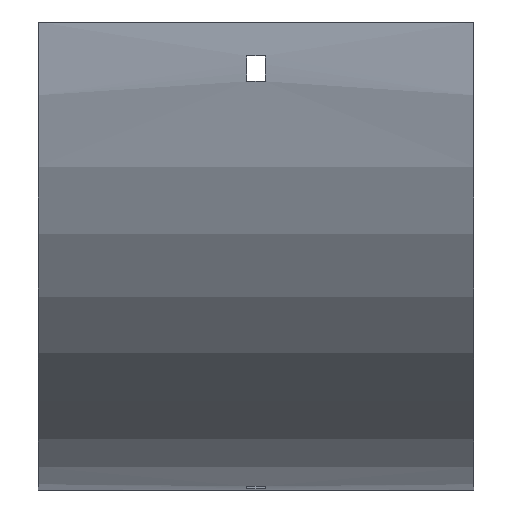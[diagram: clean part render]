
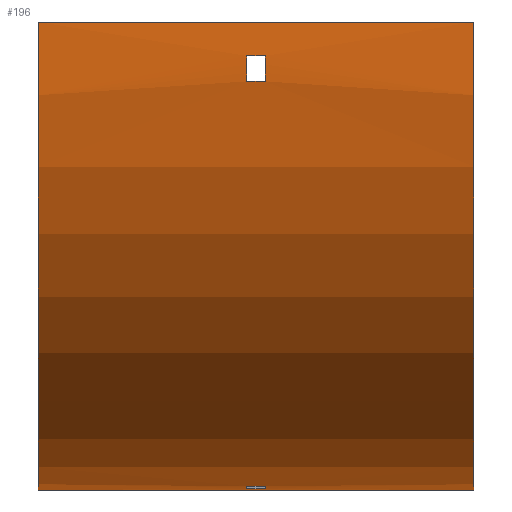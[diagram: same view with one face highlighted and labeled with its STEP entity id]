
A CAD part, front view. The second image highlights one B-rep face of the part: STEP entity #196.
In plain terms, the highlighted cylindrical face has radius 165.5 mm (diameter 331 mm), a partial arc.
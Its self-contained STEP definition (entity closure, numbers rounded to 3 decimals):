
#33 = CARTESIAN_POINT ( 'NONE',  ( -3.25, 100., 0. ) ) ;
#37 = VERTEX_POINT ( 'NONE', #362 ) ;
#40 = DIRECTION ( 'NONE',  ( -1., 0., 0. ) ) ;
#56 = DIRECTION ( 'NONE',  ( 0., 0., 1. ) ) ;
#63 = CYLINDRICAL_SURFACE ( 'NONE', #942, 165.5 ) ;
#69 = LINE ( 'NONE', #498, #694 ) ;
#71 = AXIS2_PLACEMENT_3D ( 'NONE', #138, #930, #56 ) ;
#76 = CARTESIAN_POINT ( 'NONE',  ( -77., 100., -165.5 ) ) ;
#77 = EDGE_CURVE ( 'NONE', #221, #324, #993, .T. ) ;
#85 = ORIENTED_EDGE ( 'NONE', *, *, #692, .F. ) ;
#96 = CARTESIAN_POINT ( 'NONE',  ( -3.25, 100., 0. ) ) ;
#97 = LINE ( 'NONE', #1077, #312 ) ;
#107 = VERTEX_POINT ( 'NONE', #250 ) ;
#119 = EDGE_CURVE ( 'NONE', #1107, #773, #790, .T. ) ;
#131 = DIRECTION ( 'NONE',  ( 1., 0., 0. ) ) ;
#138 = CARTESIAN_POINT ( 'NONE',  ( 3.25, 100., 0. ) ) ;
#164 = VERTEX_POINT ( 'NONE', #856 ) ;
#194 = VECTOR ( 'NONE', #610, 1000. ) ;
#196 = ADVANCED_FACE ( 'NONE', ( #589, #1026, #304 ), #63, .T. ) ;
#207 = VERTEX_POINT ( 'NONE', #840 ) ;
#212 = ORIENTED_EDGE ( 'NONE', *, *, #77, .T. ) ;
#218 = CARTESIAN_POINT ( 'NONE',  ( 3.25, 100., 0. ) ) ;
#220 = AXIS2_PLACEMENT_3D ( 'NONE', #731, #391, #746 ) ;
#221 = VERTEX_POINT ( 'NONE', #921 ) ;
#237 = EDGE_CURVE ( 'NONE', #207, #773, #316, .T. ) ;
#250 = CARTESIAN_POINT ( 'NONE',  ( 3.25, -64.162, -21. ) ) ;
#251 = VECTOR ( 'NONE', #953, 1000. ) ;
#256 = CIRCLE ( 'NONE', #71, 165.5 ) ;
#273 = CIRCLE ( 'NONE', #570, 165.5 ) ;
#276 = ORIENTED_EDGE ( 'NONE', *, *, #768, .T. ) ;
#294 = ORIENTED_EDGE ( 'NONE', *, *, #995, .F. ) ;
#299 = ORIENTED_EDGE ( 'NONE', *, *, #681, .T. ) ;
#304 = FACE_BOUND ( 'NONE', #871, .T. ) ;
#312 = VECTOR ( 'NONE', #447, 1000. ) ;
#316 = LINE ( 'NONE', #1122, #419 ) ;
#324 = VERTEX_POINT ( 'NONE', #434 ) ;
#334 = EDGE_CURVE ( 'NONE', #107, #221, #502, .T. ) ;
#350 = CARTESIAN_POINT ( 'NONE',  ( -3.25, 79., -164.162 ) ) ;
#357 = EDGE_LOOP ( 'NONE', ( #684, #212, #843, #299 ) ) ;
#362 = CARTESIAN_POINT ( 'NONE',  ( 77., -65.5, 0. ) ) ;
#369 = EDGE_CURVE ( 'NONE', #324, #584, #69, .T. ) ;
#376 = ORIENTED_EDGE ( 'NONE', *, *, #237, .F. ) ;
#384 = DIRECTION ( 'NONE',  ( 0., 1., 0. ) ) ;
#391 = DIRECTION ( 'NONE',  ( 1., 0., 0. ) ) ;
#395 = EDGE_LOOP ( 'NONE', ( #468, #376, #691, #276 ) ) ;
#413 = DIRECTION ( 'NONE',  ( -1., 0., 0. ) ) ;
#419 = VECTOR ( 'NONE', #40, 1000. ) ;
#421 = DIRECTION ( 'NONE',  ( 1., 0., 0. ) ) ;
#434 = CARTESIAN_POINT ( 'NONE',  ( -3.25, -65.064, -12. ) ) ;
#447 = DIRECTION ( 'NONE',  ( 1., 0., 0. ) ) ;
#461 = CARTESIAN_POINT ( 'NONE',  ( 3.25, -65.064, -12. ) ) ;
#468 = ORIENTED_EDGE ( 'NONE', *, *, #119, .T. ) ;
#478 = VERTEX_POINT ( 'NONE', #350 ) ;
#498 = CARTESIAN_POINT ( 'NONE',  ( 77., -65.064, -12. ) ) ;
#501 = CARTESIAN_POINT ( 'NONE',  ( 77., -65.5, 0. ) ) ;
#502 = LINE ( 'NONE', #594, #251 ) ;
#504 = DIRECTION ( 'NONE',  ( 1., 0., 0. ) ) ;
#528 = DIRECTION ( 'NONE',  ( -1., 0., 0. ) ) ;
#536 = VERTEX_POINT ( 'NONE', #911 ) ;
#538 = CARTESIAN_POINT ( 'NONE',  ( 77., 79., -164.162 ) ) ;
#547 = VECTOR ( 'NONE', #903, 1000. ) ;
#563 = CARTESIAN_POINT ( 'NONE',  ( -77., -65.5, 0. ) ) ;
#570 = AXIS2_PLACEMENT_3D ( 'NONE', #33, #131, #384 ) ;
#574 = DIRECTION ( 'NONE',  ( 1., 0., 0. ) ) ;
#584 = VERTEX_POINT ( 'NONE', #461 ) ;
#589 = FACE_OUTER_BOUND ( 'NONE', #395, .T. ) ;
#594 = CARTESIAN_POINT ( 'NONE',  ( 77., -64.162, -21. ) ) ;
#597 = CARTESIAN_POINT ( 'NONE',  ( -77., 100., 0. ) ) ;
#610 = DIRECTION ( 'NONE',  ( -1., 0., 0. ) ) ;
#662 = EDGE_CURVE ( 'NONE', #478, #536, #273, .T. ) ;
#681 = EDGE_CURVE ( 'NONE', #584, #107, #1093, .T. ) ;
#684 = ORIENTED_EDGE ( 'NONE', *, *, #334, .T. ) ;
#691 = ORIENTED_EDGE ( 'NONE', *, *, #715, .F. ) ;
#692 = EDGE_CURVE ( 'NONE', #164, #1114, #256, .T. ) ;
#694 = VECTOR ( 'NONE', #421, 1000. ) ;
#704 = DIRECTION ( 'NONE',  ( 0., 0., 1. ) ) ;
#715 = EDGE_CURVE ( 'NONE', #37, #207, #716, .T. ) ;
#716 = CIRCLE ( 'NONE', #220, 165.5 ) ;
#731 = CARTESIAN_POINT ( 'NONE',  ( 77., 100., 0. ) ) ;
#745 = DIRECTION ( 'NONE',  ( 0., 0., 1. ) ) ;
#746 = DIRECTION ( 'NONE',  ( 0., 0., -1. ) ) ;
#768 = EDGE_CURVE ( 'NONE', #37, #1107, #1051, .T. ) ;
#773 = VERTEX_POINT ( 'NONE', #76 ) ;
#790 = CIRCLE ( 'NONE', #1089, 165.5 ) ;
#825 = AXIS2_PLACEMENT_3D ( 'NONE', #96, #528, #704 ) ;
#840 = CARTESIAN_POINT ( 'NONE',  ( 77., 100., -165.5 ) ) ;
#843 = ORIENTED_EDGE ( 'NONE', *, *, #369, .T. ) ;
#856 = CARTESIAN_POINT ( 'NONE',  ( 3.25, 88., -165.064 ) ) ;
#865 = DIRECTION ( 'NONE',  ( 0., 0., -1. ) ) ;
#871 = EDGE_LOOP ( 'NONE', ( #1115, #294, #85, #876 ) ) ;
#876 = ORIENTED_EDGE ( 'NONE', *, *, #985, .F. ) ;
#903 = DIRECTION ( 'NONE',  ( -1., 0., 0. ) ) ;
#911 = CARTESIAN_POINT ( 'NONE',  ( -3.25, 88., -165.064 ) ) ;
#921 = CARTESIAN_POINT ( 'NONE',  ( -3.25, -64.162, -21. ) ) ;
#926 = AXIS2_PLACEMENT_3D ( 'NONE', #218, #574, #936 ) ;
#928 = CARTESIAN_POINT ( 'NONE',  ( 3.25, 79., -164.162 ) ) ;
#930 = DIRECTION ( 'NONE',  ( -1., 0., 0. ) ) ;
#936 = DIRECTION ( 'NONE',  ( 0., 0., -1. ) ) ;
#942 = AXIS2_PLACEMENT_3D ( 'NONE', #1118, #413, #745 ) ;
#953 = DIRECTION ( 'NONE',  ( -1., 0., 0. ) ) ;
#985 = EDGE_CURVE ( 'NONE', #536, #164, #97, .T. ) ;
#987 = LINE ( 'NONE', #538, #547 ) ;
#993 = CIRCLE ( 'NONE', #825, 165.5 ) ;
#995 = EDGE_CURVE ( 'NONE', #1114, #478, #987, .T. ) ;
#1026 = FACE_BOUND ( 'NONE', #357, .T. ) ;
#1051 = LINE ( 'NONE', #501, #194 ) ;
#1077 = CARTESIAN_POINT ( 'NONE',  ( 77., 88., -165.064 ) ) ;
#1089 = AXIS2_PLACEMENT_3D ( 'NONE', #597, #504, #865 ) ;
#1093 = CIRCLE ( 'NONE', #926, 165.5 ) ;
#1107 = VERTEX_POINT ( 'NONE', #563 ) ;
#1114 = VERTEX_POINT ( 'NONE', #928 ) ;
#1115 = ORIENTED_EDGE ( 'NONE', *, *, #662, .F. ) ;
#1118 = CARTESIAN_POINT ( 'NONE',  ( 77., 100., 0. ) ) ;
#1122 = CARTESIAN_POINT ( 'NONE',  ( 77., 100., -165.5 ) ) ;
